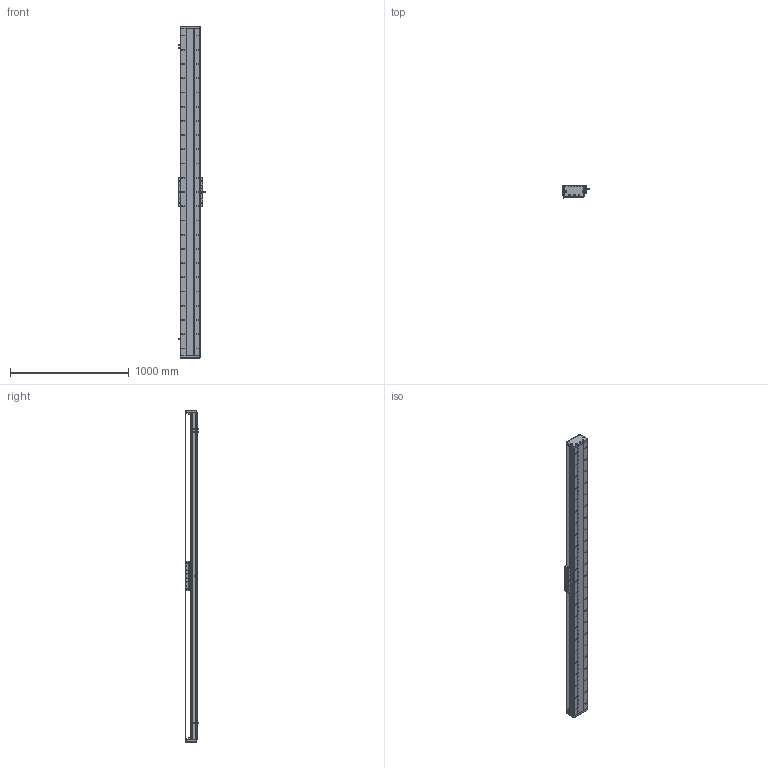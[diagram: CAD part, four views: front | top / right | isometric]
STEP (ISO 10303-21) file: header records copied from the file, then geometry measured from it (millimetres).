
FILE_DESCRIPTION (( 'STEP AP203' ), '1' );
FILE_NAME ('DA-C165-C3-T2460-C010-0.2 直线电机.STEP', '2023-06-13T08:54:03', ( '微软用户' ), ( '微软中国' ), 'SwSTEP 2.0', 'SolidWorks 2019', '' );
FILE_SCHEMA (( 'CONFIG_CONTROL_DESIGN' ));
Length unit declared in the file: millimetre
Products named in the file (18): IU-CU165-L 菁釱絳寢; 葩璃 CKM01-W075-TRL^DA-C165-C3-T-C010-0.2-N 眻盄萇儂; 葩璃 PM-T45^DA-C165-C3-T-C010-0.2-N 眻盄萇儂; 葩璃 CKM03-W075-C1C2-TP-3.0^DA-C165-C3-T-C010-0.2-N 眻盄萇儂; 复件 CU165 底座^IU-CU165-L 底座导轨_L2760; 复件 DA165-GD-DG-H-00 端盖^复件 CU165钢带组件_DA-C165-C3-T-C010-0.2-N 直线电机; 复件 XD-U-02L 磁栅尺^DA-C165-C3-T-C010-0.2-N 直线电机_T; 珨极趙賑雄怢啣C3-wf; 葩璃 DA95-GT-T-00^IU-CU165-L 菁釱絳寢_T; 复件 DA165-GD-1860-002-00 钢带盖板^复件 CU165钢带组件_DA-C165-C3-T-C010-0.2-N 直线电机; 复件 六角薄螺母 M3^DA-C165-C3-T-C010-0.2-N 直线电机_GB_FASTENER_NUT_STNAB M3-C; 复件 DA165-GDYK-00 钢带压块^复件 CU165钢带组件_DA-C165-C3-T-C010-0.2-N 直线电机; 复件 DMA-010-0.2 读数头^DA-C165-C3-T-C010-0.2-N 直线电机; DA-C165-C3-T2460-C010-0.2 眻盄萇儂; 复件 DA95-HXJ-00 缓冲橡胶^DA-C165-C3-T-C010-0.2-N 直线电机; 复件 DA165-GDLK-00 钢带拉块^复件 CU165钢带组件_DA-C165-C3-T-C010-0.2-N 直线电机; 复件 CU165钢带组件^DA-C165-C3-T-C010-0.2-N 直线电机; 复件 DA165-GYP-00 光电感应片^DA-C165-C3-T-C010-0.2-N 直线电机
Assembly tree (35 placements, depth 3):
  DA-C165-C3-T2460-C010-0.2 眻盄萇儂
    IU-CU165-L 菁釱絳寢
      复件 CU165 底座^IU-CU165-L 底座导轨_L2760
      葩璃 DA95-GT-T-00^IU-CU165-L 菁釱絳寢_T  x4
    复件 XD-U-02L 磁栅尺^DA-C165-C3-T-C010-0.2-N 直线电机_T
    葩璃 PM-T45^DA-C165-C3-T-C010-0.2-N 眻盄萇儂  x3
    葩璃 CKM01-W075-TRL^DA-C165-C3-T-C010-0.2-N 眻盄萇儂
    复件 CU165钢带组件^DA-C165-C3-T-C010-0.2-N 直线电机
      复件 DA165-GD-DG-H-00 端盖^复件 CU165钢带组件_DA-C165-C3-T-C010-0.2-N 直线电机  x2
      复件 DA165-GDYK-00 钢带压块^复件 CU165钢带组件_DA-C165-C3-T-C010-0.2-N 直线电机  x2
      复件 DA165-GD-1860-002-00 钢带盖板^复件 CU165钢带组件_DA-C165-C3-T-C010-0.2-N 直线电机
      复件 DA165-GDLK-00 钢带拉块^复件 CU165钢带组件_DA-C165-C3-T-C010-0.2-N 直线电机  x2
    复件 DA95-HXJ-00 缓冲橡胶^DA-C165-C3-T-C010-0.2-N 直线电机  x4
    复件 DA165-GYP-00 光电感应片^DA-C165-C3-T-C010-0.2-N 直线电机
    复件 DMA-010-0.2 读数头^DA-C165-C3-T-C010-0.2-N 直线电机
    葩璃 CKM03-W075-C1C2-TP-3.0^DA-C165-C3-T-C010-0.2-N 眻盄萇儂
    复件 六角薄螺母 M3^DA-C165-C3-T-C010-0.2-N 直线电机_GB_FASTENER_NUT_STNAB M3-C  x8
    珨极趙賑雄怢啣C3-wf
Bounding box: 233 x 111.45 x 2800 mm (x, y, z)
Volume: 15975314.9 mm3; surface area: 4751479.1 mm2
Topology: 72 solids, 122 shells, 4438 faces, 12765 edges, 8078 vertices
Faces by surface type: cylinder 2592, plane 1220, cone 576, torus 46, sphere 4
Entity records: 147505 total; most frequent: CARTESIAN_POINT 40133, ORIENTED_EDGE 22282, DIRECTION 21737, EDGE_CURVE 11141, AXIS2_PLACEMENT_3D 8362, VERTEX_POINT 7266, EDGE_LOOP 5181, VECTOR 5013
